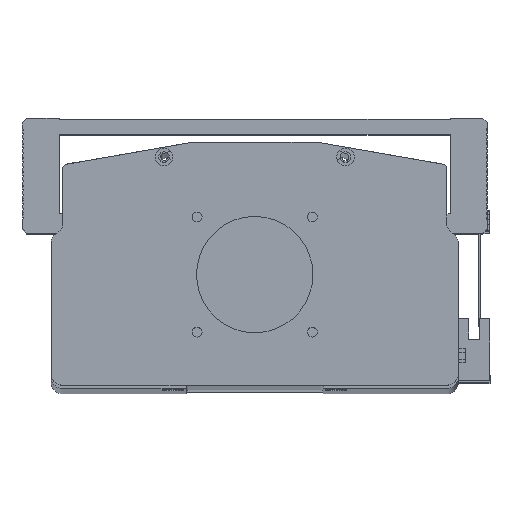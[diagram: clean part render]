
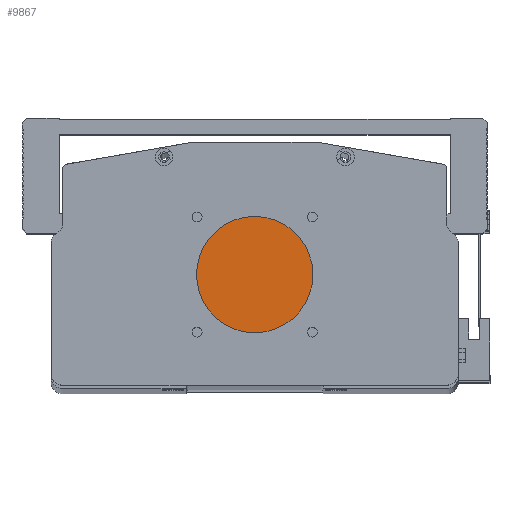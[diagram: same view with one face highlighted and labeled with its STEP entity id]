
A CAD part, top view. The second image highlights one B-rep face of the part: STEP entity #9867.
In plain terms, the highlighted planar face has unit normal (0, 0, 1).
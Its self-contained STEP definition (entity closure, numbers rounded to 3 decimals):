
#3655 = VERTEX_POINT ( 'NONE', #31545 ) ;
#4170 = CIRCLE ( 'NONE', #28044, 25. ) ;
#6491 = DIRECTION ( 'NONE',  ( 0., 0., 1. ) ) ;
#7034 = AXIS2_PLACEMENT_3D ( 'NONE', #34294, #10026, #28973 ) ;
#7086 = EDGE_CURVE ( 'NONE', #25040, #3655, #15600, .T. ) ;
#9554 = CARTESIAN_POINT ( 'NONE',  ( 87.5, 47.5, 0. ) ) ;
#9867 = ADVANCED_FACE ( 'NONE', ( #21737 ), #26276, .T. ) ;
#10026 = DIRECTION ( 'NONE',  ( 0., 0., 1. ) ) ;
#11510 = AXIS2_PLACEMENT_3D ( 'NONE', #22741, #6491, #25477 ) ;
#12276 = DIRECTION ( 'NONE',  ( 1., 0., 0. ) ) ;
#15600 = CIRCLE ( 'NONE', #11510, 25. ) ;
#19344 = CARTESIAN_POINT ( 'NONE',  ( 112.5, 47.5, 0. ) ) ;
#21737 = FACE_OUTER_BOUND ( 'NONE', #24005, .T. ) ;
#22741 = CARTESIAN_POINT ( 'NONE',  ( 87.5, 47.5, 0. ) ) ;
#23811 = ORIENTED_EDGE ( 'NONE', *, *, #7086, .T. ) ;
#24005 = EDGE_LOOP ( 'NONE', ( #32843, #23811 ) ) ;
#25040 = VERTEX_POINT ( 'NONE', #19344 ) ;
#25477 = DIRECTION ( 'NONE',  ( 1., 0., 0. ) ) ;
#26276 = PLANE ( 'NONE',  #7034 ) ;
#28044 = AXIS2_PLACEMENT_3D ( 'NONE', #9554, #28522, #12276 ) ;
#28522 = DIRECTION ( 'NONE',  ( 0., 0., 1. ) ) ;
#28687 = EDGE_CURVE ( 'NONE', #3655, #25040, #4170, .T. ) ;
#28973 = DIRECTION ( 'NONE',  ( 1., 0., 0. ) ) ;
#31545 = CARTESIAN_POINT ( 'NONE',  ( 62.5, 47.5, 0. ) ) ;
#32843 = ORIENTED_EDGE ( 'NONE', *, *, #28687, .T. ) ;
#34294 = CARTESIAN_POINT ( 'NONE',  ( 0., 0., 0. ) ) ;
